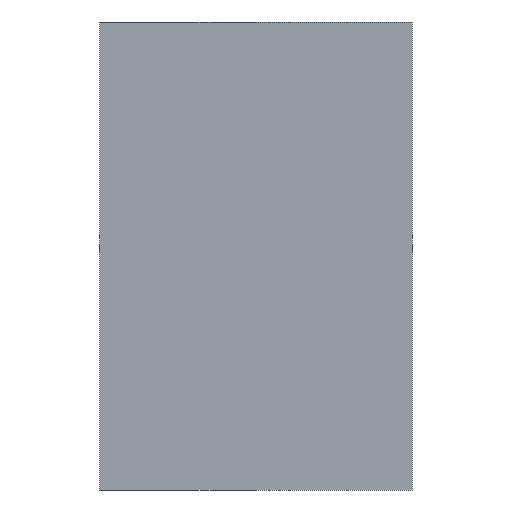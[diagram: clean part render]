
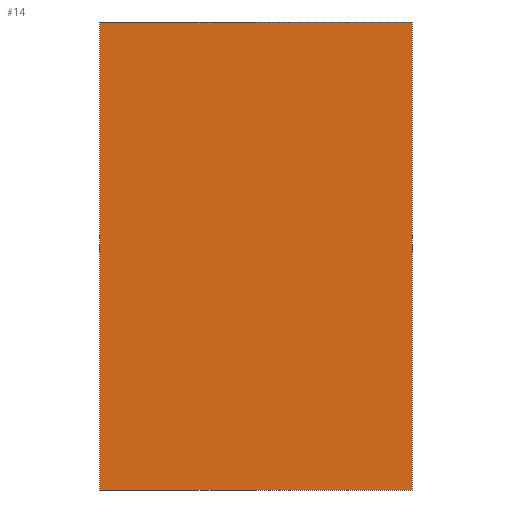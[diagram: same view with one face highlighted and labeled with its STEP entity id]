
A CAD part, front view. The second image highlights one B-rep face of the part: STEP entity #14.
In plain terms, the highlighted planar face has unit normal (0, -1, 0).
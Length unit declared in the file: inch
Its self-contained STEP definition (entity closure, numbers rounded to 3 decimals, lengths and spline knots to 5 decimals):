
#14=ADVANCED_FACE('',(#20),#88,.T.);
#20=FACE_OUTER_BOUND('',#26,.T.);
#26=EDGE_LOOP('',(#32,#33,#34,#35));
#32=ORIENTED_EDGE('',*,*,#56,.T.);
#33=ORIENTED_EDGE('',*,*,#65,.T.);
#34=ORIENTED_EDGE('',*,*,#60,.F.);
#35=ORIENTED_EDGE('',*,*,#64,.F.);
#56=EDGE_CURVE('',#80,#81,#68,.T.);
#60=EDGE_CURVE('',#84,#85,#72,.T.);
#64=EDGE_CURVE('',#80,#84,#76,.T.);
#65=EDGE_CURVE('',#81,#85,#77,.T.);
#68=B_SPLINE_CURVE_WITH_KNOTS('',1,(#217,#218),.UNSPECIFIED.,.F.,.F.,(2,
2),(0.,4.),.UNSPECIFIED.);
#72=B_SPLINE_CURVE_WITH_KNOTS('',1,(#225,#226),.UNSPECIFIED.,.F.,.F.,(2,
2),(0.,4.),.UNSPECIFIED.);
#76=B_SPLINE_CURVE_WITH_KNOTS('',1,(#233,#234),.UNSPECIFIED.,.F.,.F.,(2,
2),(0.,6.),.UNSPECIFIED.);
#77=B_SPLINE_CURVE_WITH_KNOTS('',1,(#235,#236),.UNSPECIFIED.,.F.,.F.,(2,
2),(0.,6.),.UNSPECIFIED.);
#80=VERTEX_POINT('',#209);
#81=VERTEX_POINT('',#210);
#84=VERTEX_POINT('',#213);
#85=VERTEX_POINT('',#214);
#88=PLANE('',#185);
#185=AXIS2_PLACEMENT_3D('',#203,#194,$);
#194=DIRECTION('',(0.,-1.,0.));
#203=CARTESIAN_POINT('',(0.,0.,0.));
#209=CARTESIAN_POINT('',(0.,0.,0.));
#210=CARTESIAN_POINT('',(4.,0.,0.));
#213=CARTESIAN_POINT('',(0.,0.,6.));
#214=CARTESIAN_POINT('',(4.,0.,6.));
#217=CARTESIAN_POINT('',(0.,0.,0.));
#218=CARTESIAN_POINT('',(4.,0.,0.));
#225=CARTESIAN_POINT('',(0.,0.,6.));
#226=CARTESIAN_POINT('',(4.,0.,6.));
#233=CARTESIAN_POINT('',(0.,0.,0.));
#234=CARTESIAN_POINT('',(0.,0.,6.));
#235=CARTESIAN_POINT('',(4.,0.,0.));
#236=CARTESIAN_POINT('',(4.,0.,6.));
